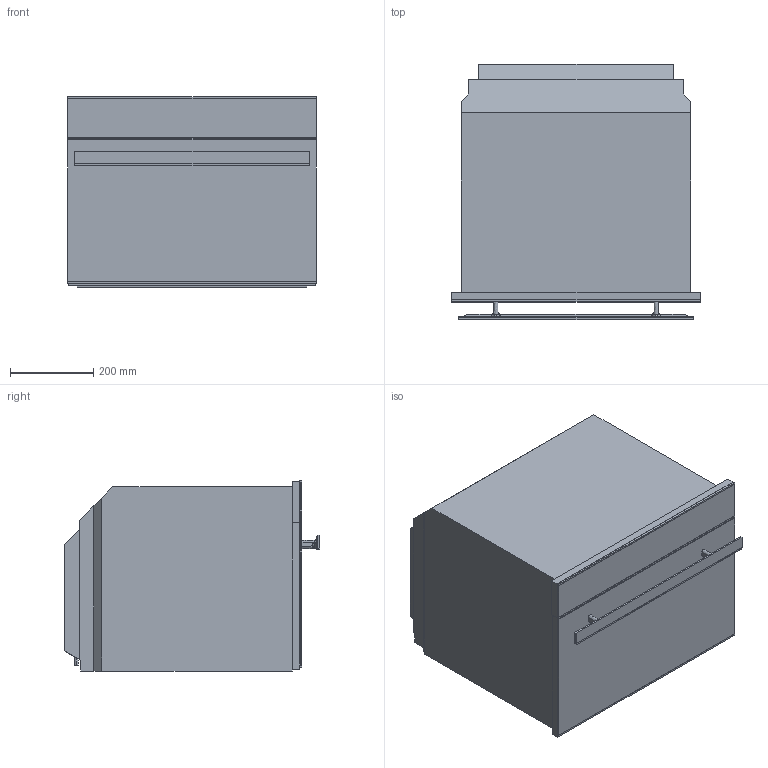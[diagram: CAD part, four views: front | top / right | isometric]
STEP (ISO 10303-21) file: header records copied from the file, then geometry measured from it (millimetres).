
FILE_DESCRIPTION(/* description */ ('Unknown'),/* implementation_level */ '2;1');
FILE_NAME(/* name */ 'SO4602M1NR',/* time_stamp */ '2025-07-15T10:26:03+02:00',/* author */ ('Unknown'),/* organization */ ('Unknown'),/* preprocessor_version */ 'ST-DEVELOPER v16.7',/* originating_system */ 'DEX',/* authorisation */ $);
FILE_SCHEMA (('AUTOMOTIVE_DESIGN {1 0 10303 214 3 1 1}'));
Length unit declared in the file: millimetre
Products named in the file (1): SO4602M1NR
Bounding box: 597 x 612 x 456.05 mm (x, y, z)
Volume: 132275105.7 mm3; surface area: 2174934.6 mm2
Topology: 1 solids, 1 shells, 132 faces, 378 edges, 246 vertices
Faces by surface type: plane 99, bspline 21, cylinder 12
Entity records: 7114 total; most frequent: CARTESIAN_POINT 2948, ORIENTED_EDGE 756, DIRECTION 522, EDGE_CURVE 378, LINE 274, VECTOR 274, VERTEX_POINT 246, EDGE_LOOP 136
